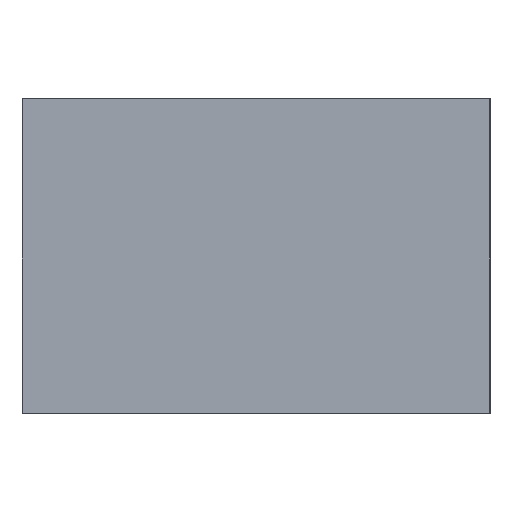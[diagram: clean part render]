
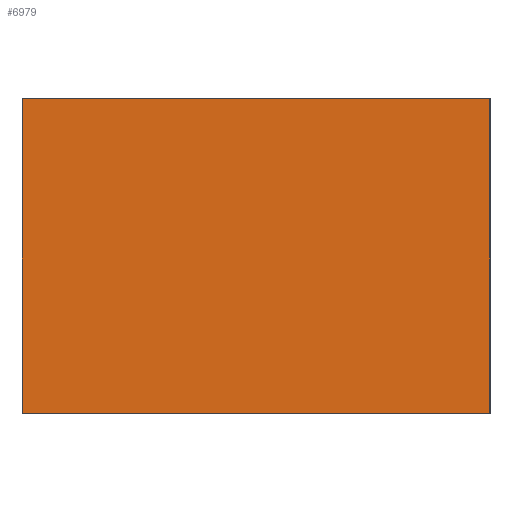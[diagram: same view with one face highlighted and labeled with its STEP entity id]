
A CAD part, top view. The second image highlights one B-rep face of the part: STEP entity #6979.
In plain terms, the highlighted planar face has unit normal (0, 0, 1).
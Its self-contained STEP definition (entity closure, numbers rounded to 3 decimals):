
#6979=ADVANCED_FACE('',(#9196),#34212,.T.);
#9196=FACE_OUTER_BOUND('',#11502,.T.);
#11502=EDGE_LOOP('',(#20874,#20875,#20876,#20877));
#20874=ORIENTED_EDGE('',*,*,#26576,.T.);
#20875=ORIENTED_EDGE('',*,*,#26578,.T.);
#20876=ORIENTED_EDGE('',*,*,#26577,.F.);
#20877=ORIENTED_EDGE('',*,*,#26575,.F.);
#26575=EDGE_CURVE('',#33354,#33355,#30029,.T.);
#26576=EDGE_CURVE('',#33354,#33356,#30030,.T.);
#26577=EDGE_CURVE('',#33355,#33357,#30031,.T.);
#26578=EDGE_CURVE('',#33356,#33357,#30032,.T.);
#30029=B_SPLINE_CURVE_WITH_KNOTS('',1,(#65277,#65278),.UNSPECIFIED.,.F.,
 .F.,(2,2),(2.5,2652.5),.UNSPECIFIED.);
#30030=B_SPLINE_CURVE_WITH_KNOTS('',1,(#65279,#65280),.UNSPECIFIED.,.F.,
 .F.,(2,2),(2.5,3935.5),.UNSPECIFIED.);
#30031=B_SPLINE_CURVE_WITH_KNOTS('',1,(#65281,#65282),.UNSPECIFIED.,.F.,
 .F.,(2,2),(2.5,3935.5),.UNSPECIFIED.);
#30032=B_SPLINE_CURVE_WITH_KNOTS('',1,(#65283,#65284),.UNSPECIFIED.,.F.,
 .F.,(2,2),(2.5,2652.5),.UNSPECIFIED.);
#33354=VERTEX_POINT('',#65249);
#33355=VERTEX_POINT('',#65250);
#33356=VERTEX_POINT('',#65251);
#33357=VERTEX_POINT('',#65252);
#34212=PLANE('',#34941);
#34941=AXIS2_PLACEMENT_3D('',#65038,#35654,$);
#35654=DIRECTION('',(0.,0.,1.));
#65038=CARTESIAN_POINT('',(-184.81,2242.041,2483.5));
#65249=CARTESIAN_POINT('',(3750.69,2239.541,2483.5));
#65250=CARTESIAN_POINT('',(3750.69,-410.459,2483.5));
#65251=CARTESIAN_POINT('',(-182.31,2239.541,2483.5));
#65252=CARTESIAN_POINT('',(-182.31,-410.459,2483.5));
#65277=CARTESIAN_POINT('',(3750.69,2239.541,2483.5));
#65278=CARTESIAN_POINT('',(3750.69,-410.459,2483.5));
#65279=CARTESIAN_POINT('',(3750.69,2239.541,2483.5));
#65280=CARTESIAN_POINT('',(-182.31,2239.541,2483.5));
#65281=CARTESIAN_POINT('',(3750.69,-410.459,2483.5));
#65282=CARTESIAN_POINT('',(-182.31,-410.459,2483.5));
#65283=CARTESIAN_POINT('',(-182.31,2239.541,2483.5));
#65284=CARTESIAN_POINT('',(-182.31,-410.459,2483.5));
